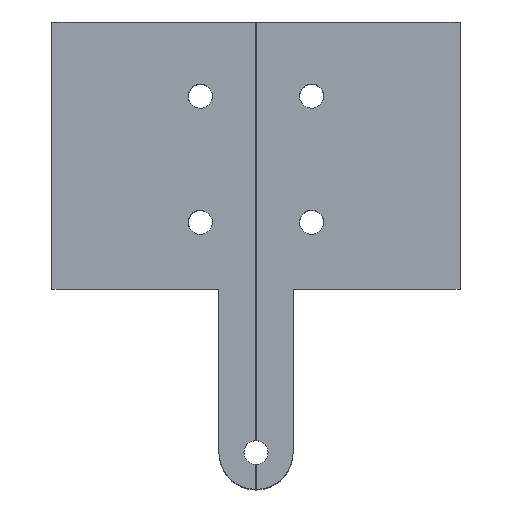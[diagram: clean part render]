
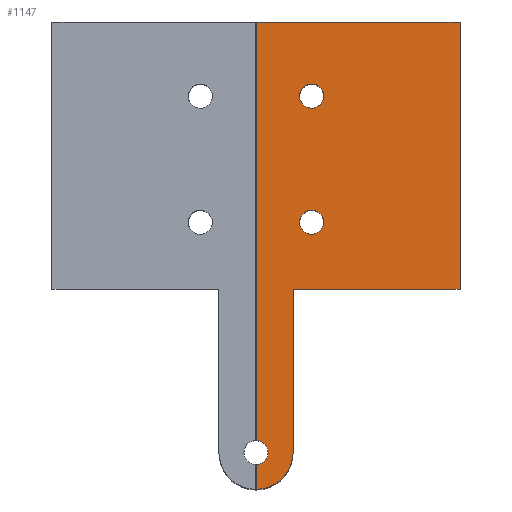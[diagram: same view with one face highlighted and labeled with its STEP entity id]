
A CAD part, top view. The second image highlights one B-rep face of the part: STEP entity #1147.
In plain terms, the highlighted planar face has unit normal (0, 0, 1).
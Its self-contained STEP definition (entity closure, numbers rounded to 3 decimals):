
#61=CARTESIAN_POINT('Vertex',(6.077,47.223,13.)) ;
#66=CARTESIAN_POINT('Axis2P3D Location',(7.5,48.,13.)) ;
#70=CARTESIAN_POINT('Vertex',(8.923,48.777,13.)) ;
#107=CARTESIAN_POINT('Axis2P3D Location',(7.5,48.,13.)) ;
#164=CARTESIAN_POINT('Vertex',(5.,0.,13.)) ;
#167=CARTESIAN_POINT('Axis2P3D Location',(0.,0.,13.)) ;
#171=CARTESIAN_POINT('Vertex',(0.09,-4.999,13.)) ;
#203=CARTESIAN_POINT('Vertex',(5.,22.,13.)) ;
#206=CARTESIAN_POINT('Line Origine',(5.,11.,13.)) ;
#234=CARTESIAN_POINT('Vertex',(27.5,22.,13.)) ;
#237=CARTESIAN_POINT('Line Origine',(16.25,22.,13.)) ;
#265=CARTESIAN_POINT('Vertex',(27.5,58.,13.)) ;
#268=CARTESIAN_POINT('Line Origine',(27.5,40.,13.)) ;
#325=CARTESIAN_POINT('Vertex',(0.09,58.,13.)) ;
#330=CARTESIAN_POINT('Line Origine',(13.795,58.,13.)) ;
#389=CARTESIAN_POINT('Vertex',(0.09,1.618,13.)) ;
#392=CARTESIAN_POINT('Line Origine',(0.09,29.809,13.)) ;
#464=CARTESIAN_POINT('Line Origine',(0.09,-3.309,13.)) ;
#468=CARTESIAN_POINT('Vertex',(0.09,-1.618,13.)) ;
#906=CARTESIAN_POINT('Axis2P3D Location',(0.,0.,13.)) ;
#910=CARTESIAN_POINT('Vertex',(1.423,-0.777,13.)) ;
#925=CARTESIAN_POINT('Axis2P3D Location',(0.,0.,13.)) ;
#1109=CARTESIAN_POINT('Axis2P3D Location',(0.,0.,13.)) ;
#1125=CARTESIAN_POINT('Axis2P3D Location',(7.5,31.,13.)) ;
#1129=CARTESIAN_POINT('Vertex',(6.077,30.223,13.)) ;
#1131=CARTESIAN_POINT('Vertex',(8.923,31.777,13.)) ;
#1134=CARTESIAN_POINT('Axis2P3D Location',(7.5,31.,13.)) ;
#67=DIRECTION('Axis2P3D Direction',(0.,-0.,1.)) ;
#108=DIRECTION('Axis2P3D Direction',(0.,-0.,1.)) ;
#168=DIRECTION('Axis2P3D Direction',(0.,0.,-1.)) ;
#207=DIRECTION('Vector Direction',(0.,1.,0.)) ;
#238=DIRECTION('Vector Direction',(-1.,0.,0.)) ;
#269=DIRECTION('Vector Direction',(0.,1.,0.)) ;
#331=DIRECTION('Vector Direction',(1.,0.,0.)) ;
#393=DIRECTION('Vector Direction',(0.,-1.,0.)) ;
#465=DIRECTION('Vector Direction',(0.,-1.,0.)) ;
#907=DIRECTION('Axis2P3D Direction',(0.,-0.,-1.)) ;
#926=DIRECTION('Axis2P3D Direction',(0.,-0.,-1.)) ;
#1110=DIRECTION('Axis2P3D Direction',(0.,0.,1.)) ;
#1111=DIRECTION('Axis2P3D XDirection',(1.,0.,0.)) ;
#1126=DIRECTION('Axis2P3D Direction',(0.,0.,1.)) ;
#1135=DIRECTION('Axis2P3D Direction',(0.,0.,1.)) ;
#68=AXIS2_PLACEMENT_3D('Circle Axis2P3D',#66,#67,$) ;
#109=AXIS2_PLACEMENT_3D('Circle Axis2P3D',#107,#108,$) ;
#169=AXIS2_PLACEMENT_3D('Circle Axis2P3D',#167,#168,$) ;
#908=AXIS2_PLACEMENT_3D('Circle Axis2P3D',#906,#907,$) ;
#927=AXIS2_PLACEMENT_3D('Circle Axis2P3D',#925,#926,$) ;
#1112=AXIS2_PLACEMENT_3D('Plane Axis2P3D',#1109,#1110,#1111) ;
#1127=AXIS2_PLACEMENT_3D('Circle Axis2P3D',#1125,#1126,$) ;
#1136=AXIS2_PLACEMENT_3D('Circle Axis2P3D',#1134,#1135,$) ;
#1115=ORIENTED_EDGE('',*,*,#173,.T.) ;
#1116=ORIENTED_EDGE('',*,*,#210,.T.) ;
#1117=ORIENTED_EDGE('',*,*,#241,.T.) ;
#1118=ORIENTED_EDGE('',*,*,#272,.T.) ;
#1119=ORIENTED_EDGE('',*,*,#334,.T.) ;
#1120=ORIENTED_EDGE('',*,*,#396,.T.) ;
#1121=ORIENTED_EDGE('',*,*,#929,.F.) ;
#1122=ORIENTED_EDGE('',*,*,#912,.F.) ;
#1123=ORIENTED_EDGE('',*,*,#470,.T.) ;
#1140=ORIENTED_EDGE('',*,*,#1133,.F.) ;
#1141=ORIENTED_EDGE('',*,*,#1138,.F.) ;
#1144=ORIENTED_EDGE('',*,*,#111,.F.) ;
#1145=ORIENTED_EDGE('',*,*,#72,.F.) ;
#1142=FACE_BOUND('',#1139,.T.) ;
#1146=FACE_BOUND('',#1143,.T.) ;
#208=VECTOR('Line Direction',#207,1.) ;
#239=VECTOR('Line Direction',#238,1.) ;
#270=VECTOR('Line Direction',#269,1.) ;
#332=VECTOR('Line Direction',#331,1.) ;
#394=VECTOR('Line Direction',#393,1.) ;
#466=VECTOR('Line Direction',#465,1.) ;
#1147=ADVANCED_FACE('\X2\51E04F554F53\X0\.3',(#1124,#1142,#1146),#1113,.T.) ;
#69=CIRCLE('generated circle',#68,1.621) ;
#110=CIRCLE('generated circle',#109,1.621) ;
#170=CIRCLE('generated circle',#169,5.) ;
#909=CIRCLE('generated circle',#908,1.621) ;
#928=CIRCLE('generated circle',#927,1.621) ;
#1128=CIRCLE('generated circle',#1127,1.621) ;
#1137=CIRCLE('generated circle',#1136,1.621) ;
#72=EDGE_CURVE('',#62,#71,#69,.T.) ;
#111=EDGE_CURVE('',#71,#62,#110,.T.) ;
#173=EDGE_CURVE('',#172,#165,#170,.F.) ;
#210=EDGE_CURVE('',#165,#204,#209,.T.) ;
#241=EDGE_CURVE('',#204,#235,#240,.F.) ;
#272=EDGE_CURVE('',#235,#266,#271,.T.) ;
#334=EDGE_CURVE('',#266,#326,#333,.F.) ;
#396=EDGE_CURVE('',#326,#390,#395,.T.) ;
#470=EDGE_CURVE('',#469,#172,#467,.T.) ;
#912=EDGE_CURVE('',#469,#911,#909,.F.) ;
#929=EDGE_CURVE('',#911,#390,#928,.F.) ;
#1133=EDGE_CURVE('',#1130,#1132,#1128,.T.) ;
#1138=EDGE_CURVE('',#1132,#1130,#1137,.T.) ;
#1114=EDGE_LOOP('',(#1115,#1116,#1117,#1118,#1119,#1120,#1121,#1122,#1123)) ;
#1139=EDGE_LOOP('',(#1140,#1141)) ;
#1143=EDGE_LOOP('',(#1144,#1145)) ;
#1124=FACE_OUTER_BOUND('',#1114,.T.) ;
#209=LINE('Line',#206,#208) ;
#240=LINE('Line',#237,#239) ;
#271=LINE('Line',#268,#270) ;
#333=LINE('Line',#330,#332) ;
#395=LINE('Line',#392,#394) ;
#467=LINE('Line',#464,#466) ;
#1113=PLANE('Plane',#1112) ;
#62=VERTEX_POINT('',#61) ;
#71=VERTEX_POINT('',#70) ;
#165=VERTEX_POINT('',#164) ;
#172=VERTEX_POINT('',#171) ;
#204=VERTEX_POINT('',#203) ;
#235=VERTEX_POINT('',#234) ;
#266=VERTEX_POINT('',#265) ;
#326=VERTEX_POINT('',#325) ;
#390=VERTEX_POINT('',#389) ;
#469=VERTEX_POINT('',#468) ;
#911=VERTEX_POINT('',#910) ;
#1130=VERTEX_POINT('',#1129) ;
#1132=VERTEX_POINT('',#1131) ;
